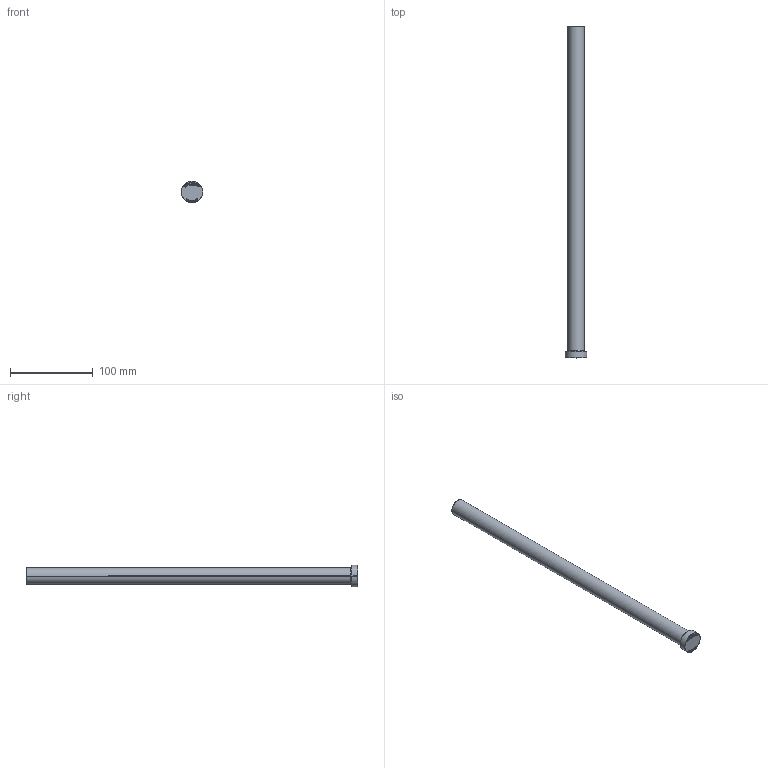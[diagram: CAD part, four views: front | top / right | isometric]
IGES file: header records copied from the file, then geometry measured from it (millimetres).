
Start section: SolidWorks IGES file using analytic representation for surfaces
Global section: file name: C:\Users\User\Downloads\Matripeça 31-08 tar\PB - PINO EXTRATOR TIPO _B_ (CATÁLOGO)\PB20,0\PB20,0400.IGS; native system: SolidWorks 2024; preprocessor: SolidWorks 2024; author: User; date: 260901.155750; units: millimetre
Bounding box: 26 x 400 x 26 mm (x, y, z)
Surface area: 26339.7 mm2 (no closed solid volume)
Topology: 0 solids, 0 shells, 402 faces, 4435 edges, 4435 vertices
Faces by surface type: bspline 388, revolution 14
